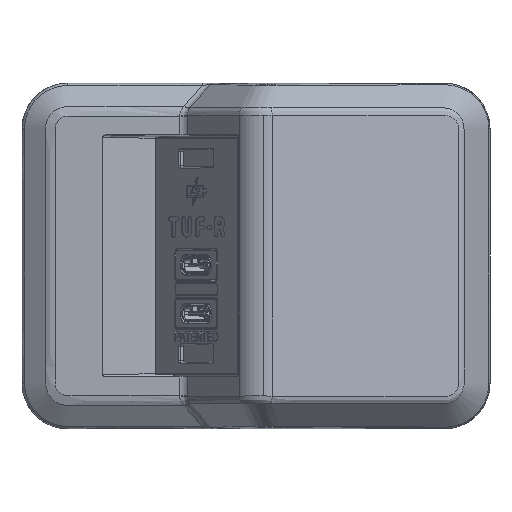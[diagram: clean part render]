
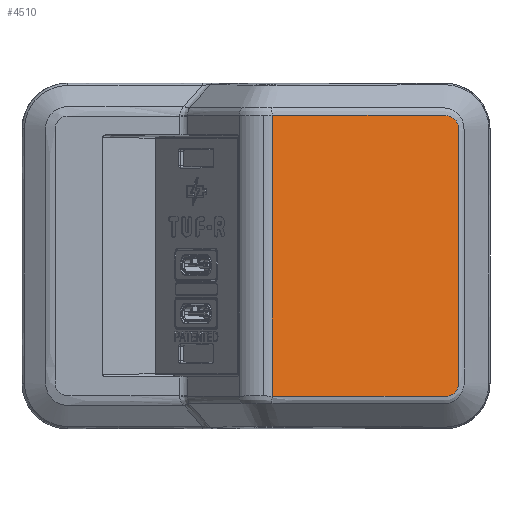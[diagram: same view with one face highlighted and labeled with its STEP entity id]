
A CAD part, top view. The second image highlights one B-rep face of the part: STEP entity #4510.
In plain terms, the highlighted planar face has unit normal (0.292, 0, 0.956).
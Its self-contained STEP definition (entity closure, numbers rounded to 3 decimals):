
#527 = CARTESIAN_POINT ( 'NONE',  ( 4.309, -27.62, 21.446 ) ) ;
#2347 = CARTESIAN_POINT ( 'NONE',  ( 7.593, -27.62, 20.442 ) ) ;
#3245 = CARTESIAN_POINT ( 'NONE',  ( 37.357, 27.62, 11.343 ) ) ;
#3831 = CARTESIAN_POINT ( 'NONE',  ( 3.215, 27.606, 21.781 ) ) ;
#4141 = CARTESIAN_POINT ( 'NONE',  ( 21.868, 27.62, 16.078 ) ) ;
#4510 = ADVANCED_FACE ( 'NONE', ( #144456 ), #7400, .F. ) ;
#5006 = CARTESIAN_POINT ( 'NONE',  ( 39.835, -23.023, 10.585 ) ) ;
#5588 = DIRECTION ( 'NONE',  ( -0.292, 0., -0.956 ) ) ;
#5891 = CARTESIAN_POINT ( 'NONE',  ( 37.847, 27.54, 11.193 ) ) ;
#6798 = CARTESIAN_POINT ( 'NONE',  ( 39.626, -26.03, 10.649 ) ) ;
#7298 = EDGE_CURVE ( 'NONE', #172639, #37217, #113507, .T. ) ;
#7400 = PLANE ( 'NONE',  #169416 ) ;
#12490 = CARTESIAN_POINT ( 'NONE',  ( 3.215, -27.606, 21.781 ) ) ;
#14228 = CARTESIAN_POINT ( 'NONE',  ( 3.84, -27.62, 21.59 ) ) ;
#14832 = CARTESIAN_POINT ( 'NONE',  ( 3.881, 27.62, 21.577 ) ) ;
#17845 = CARTESIAN_POINT ( 'NONE',  ( 38.756, 27.117, 10.915 ) ) ;
#18732 = CARTESIAN_POINT ( 'NONE',  ( 39.835, -1.166, 10.585 ) ) ;
#19602 = CARTESIAN_POINT ( 'NONE',  ( 39.809, 25.399, 10.593 ) ) ;
#20484 = CARTESIAN_POINT ( 'NONE',  ( 38.47, 27.296, 11.002 ) ) ;
#27658 = CARTESIAN_POINT ( 'NONE',  ( 3.381, 27.619, 21.73 ) ) ;
#31550 = CARTESIAN_POINT ( 'NONE',  ( 35.858, 27.62, 11.801 ) ) ;
#31995 = LINE ( 'NONE', #33775, #174751 ) ;
#32430 = CARTESIAN_POINT ( 'NONE',  ( 39.067, -26.876, 10.82 ) ) ;
#33318 = CARTESIAN_POINT ( 'NONE',  ( 39.828, -25.208, 10.587 ) ) ;
#33775 = CARTESIAN_POINT ( 'NONE',  ( 3.215, -34., 21.781 ) ) ;
#34205 = CARTESIAN_POINT ( 'NONE',  ( 39.465, 26.378, 10.698 ) ) ;
#37217 = VERTEX_POINT ( 'NONE', #106546 ) ;
#43194 = CARTESIAN_POINT ( 'NONE',  ( 3.548, 27.62, 21.679 ) ) ;
#45324 = CARTESIAN_POINT ( 'NONE',  ( 39.835, 12.285, 10.585 ) ) ;
#46181 = CARTESIAN_POINT ( 'NONE',  ( 39.297, -26.62, 10.749 ) ) ;
#47074 = CARTESIAN_POINT ( 'NONE',  ( 39.835, 24.727, 10.585 ) ) ;
#47672 = CARTESIAN_POINT ( 'NONE',  ( -0.729, -34., 22.986 ) ) ;
#47971 = CARTESIAN_POINT ( 'NONE',  ( 5.546, 27.62, 21.068 ) ) ;
#57222 = CARTESIAN_POINT ( 'NONE',  ( 5.404, -27.62, 21.112 ) ) ;
#58115 = CARTESIAN_POINT ( 'NONE',  ( 11.97, -27.62, 19.104 ) ) ;
#59010 = CARTESIAN_POINT ( 'NONE',  ( 38.529, -27.263, 10.984 ) ) ;
#59328 = ORIENTED_EDGE ( 'NONE', *, *, #7298, .T. ) ;
#59902 = CARTESIAN_POINT ( 'NONE',  ( 39.677, 25.902, 10.633 ) ) ;
#60753 = CARTESIAN_POINT ( 'NONE',  ( 39.836, 24.979, 10.584 ) ) ;
#61345 = DIRECTION ( 'NONE',  ( 0.956, 0., -0.292 ) ) ;
#61642 = CARTESIAN_POINT ( 'NONE',  ( 37.299, -27.623, 11.36 ) ) ;
#71756 = CARTESIAN_POINT ( 'NONE',  ( 3.527, -27.62, 21.685 ) ) ;
#73530 = CARTESIAN_POINT ( 'NONE',  ( 12.541, 27.62, 18.929 ) ) ;
#74423 = CARTESIAN_POINT ( 'NONE',  ( 39.835, 23.886, 10.585 ) ) ;
#75277 = CARTESIAN_POINT ( 'NONE',  ( 39.835, 24.895, 10.585 ) ) ;
#76175 = CARTESIAN_POINT ( 'NONE',  ( 4.381, 27.62, 21.424 ) ) ;
#81488 = EDGE_CURVE ( 'NONE', #37217, #172639, #31995, .T. ) ;
#87205 = CARTESIAN_POINT ( 'NONE',  ( 29.862, 27.62, 13.634 ) ) ;
#88094 = CARTESIAN_POINT ( 'NONE',  ( 39.835, -24.704, 10.585 ) ) ;
#88998 = CARTESIAN_POINT ( 'NONE',  ( 39.836, -25.04, 10.584 ) ) ;
#89876 = CARTESIAN_POINT ( 'NONE',  ( 39.739, -25.711, 10.614 ) ) ;
#100087 = CARTESIAN_POINT ( 'NONE',  ( 20.726, -27.62, 16.427 ) ) ;
#100975 = CARTESIAN_POINT ( 'NONE',  ( 39.261, 26.666, 10.76 ) ) ;
#101843 = CARTESIAN_POINT ( 'NONE',  ( 39.835, -24.2, 10.585 ) ) ;
#102725 = CARTESIAN_POINT ( 'NONE',  ( 37.768, -27.559, 11.217 ) ) ;
#103610 = CARTESIAN_POINT ( 'NONE',  ( 39.835, 24.474, 10.585 ) ) ;
#106546 = CARTESIAN_POINT ( 'NONE',  ( 3.215, 27.606, 21.781 ) ) ;
#113332 = DIRECTION ( 'NONE',  ( 0., -1., 0. ) ) ;
#113507 = B_SPLINE_CURVE_WITH_KNOTS ( 'NONE', 3,
 ( #141207, #169519, #71756, #14228, #527, #57222, #2347, #58115, #100087, #155785, #142975, #158438, #61642, #157554, #102725, #170410, #116444, #59010, #172163, #32430, #46181, #131920, #6798, #89876, #114702, #156671, #33318, #88998, #131019, #88094, #101843, #5006, #143877, #171280, #18732, #45324, #159319, #74423, #103610, #47074, #75277, #60753, #144748, #19602, #130153, #59902, #34205, #100975, #128378, #17845, #20484, #145607, #129271, #5891, #117329, #3245, #173053, #31550, #87205, #4141, #73530, #115586, #47971, #76175, #14832, #43194, #27658, #3831 ),
 .UNSPECIFIED., .F., .F.,
 ( 4, 2, 1, 1, 1, 1, 1, 1, 2, 2, 2, 2, 2, 2, 2, 2, 2, 2, 1, 1, 1, 1, 1, 1, 1, 1, 1, 2, 2, 2, 2, 2, 2, 2, 2, 2, 2, 1, 1, 1, 1, 1, 2, 4 ),
 ( 0., 0., 0.001, 0.002, 0.004, 0.008, 0.016, 0.031, 0.035, 0.036, 0.036, 0.037, 0.037, 0.038, 0.039, 0.039, 0.039, 0.04, 0.04, 0.041, 0.043, 0.047, 0.063, 0.078, 0.086, 0.087, 0.088, 0.088, 0.088, 0.089, 0.089, 0.09, 0.091, 0.091, 0.092, 0.092, 0.094, 0.11, 0.118, 0.122, 0.124, 0.125, 0.125, 0.126 ),
 .UNSPECIFIED. ) ;
#114702 = CARTESIAN_POINT ( 'NONE',  ( 39.781, -25.544, 10.601 ) ) ;
#115586 = CARTESIAN_POINT ( 'NONE',  ( 7.878, 27.62, 20.355 ) ) ;
#116444 = CARTESIAN_POINT ( 'NONE',  ( 38.236, -27.408, 11.074 ) ) ;
#117329 = CARTESIAN_POINT ( 'NONE',  ( 37.521, 27.603, 11.292 ) ) ;
#128378 = CARTESIAN_POINT ( 'NONE',  ( 38.892, 27.013, 10.873 ) ) ;
#129271 = CARTESIAN_POINT ( 'NONE',  ( 38.01, 27.493, 11.143 ) ) ;
#130153 = CARTESIAN_POINT ( 'NONE',  ( 39.733, 25.735, 10.616 ) ) ;
#131019 = CARTESIAN_POINT ( 'NONE',  ( 39.835, -24.956, 10.585 ) ) ;
#131920 = CARTESIAN_POINT ( 'NONE',  ( 39.555, -26.182, 10.671 ) ) ;
#141207 = CARTESIAN_POINT ( 'NONE',  ( 3.215, -27.606, 21.781 ) ) ;
#142975 = CARTESIAN_POINT ( 'NONE',  ( 35.736, -27.62, 11.838 ) ) ;
#143877 = CARTESIAN_POINT ( 'NONE',  ( 39.835, -20.669, 10.585 ) ) ;
#144456 = FACE_OUTER_BOUND ( 'NONE', #154274, .T. ) ;
#144748 = CARTESIAN_POINT ( 'NONE',  ( 39.83, 25.231, 10.586 ) ) ;
#145607 = CARTESIAN_POINT ( 'NONE',  ( 38.321, 27.37, 11.048 ) ) ;
#152218 = ORIENTED_EDGE ( 'NONE', *, *, #81488, .T. ) ;
#154274 = EDGE_LOOP ( 'NONE', ( #152218, #59328 ) ) ;
#155785 = CARTESIAN_POINT ( 'NONE',  ( 29.482, -27.62, 13.75 ) ) ;
#156671 = CARTESIAN_POINT ( 'NONE',  ( 39.819, -25.292, 10.59 ) ) ;
#157554 = CARTESIAN_POINT ( 'NONE',  ( 37.612, -27.589, 11.265 ) ) ;
#158438 = CARTESIAN_POINT ( 'NONE',  ( 37.143, -27.62, 11.408 ) ) ;
#159319 = CARTESIAN_POINT ( 'NONE',  ( 39.835, 20.691, 10.585 ) ) ;
#169416 = AXIS2_PLACEMENT_3D ( 'NONE', #47672, #5588, #61345 ) ;
#169519 = CARTESIAN_POINT ( 'NONE',  ( 3.371, -27.618, 21.733 ) ) ;
#170410 = CARTESIAN_POINT ( 'NONE',  ( 38.08, -27.468, 11.121 ) ) ;
#171280 = CARTESIAN_POINT ( 'NONE',  ( 39.835, -13.271, 10.585 ) ) ;
#172163 = CARTESIAN_POINT ( 'NONE',  ( 38.669, -27.177, 10.941 ) ) ;
#172639 = VERTEX_POINT ( 'NONE', #12490 ) ;
#173053 = CARTESIAN_POINT ( 'NONE',  ( 36.524, 27.62, 11.597 ) ) ;
#174751 = VECTOR ( 'NONE', #113332, 1000. ) ;
